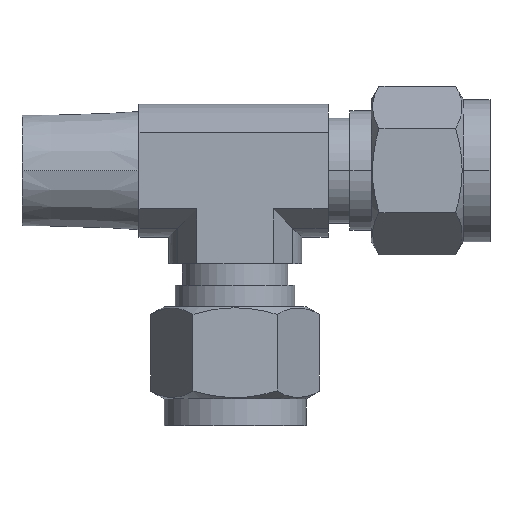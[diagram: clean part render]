
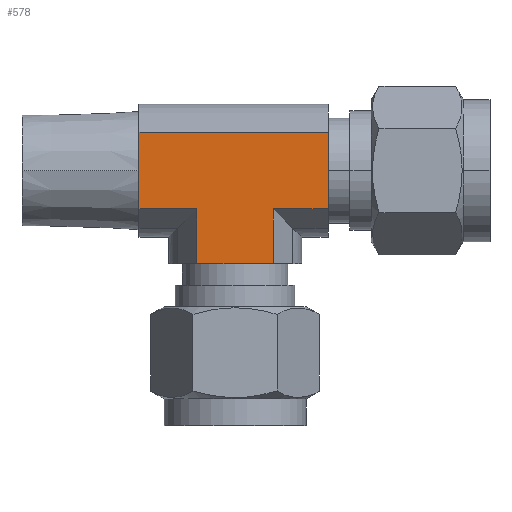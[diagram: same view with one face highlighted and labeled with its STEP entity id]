
A CAD part, top view. The second image highlights one B-rep face of the part: STEP entity #578.
In plain terms, the highlighted planar face has unit normal (0, 0, 1).
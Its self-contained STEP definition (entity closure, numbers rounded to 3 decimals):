
#256 = VERTEX_POINT ( 'NONE', #1457 ) ;
#258 = EDGE_CURVE ( 'NONE', #256, #259, #1456, .T. ) ;
#259 = VERTEX_POINT ( 'NONE', #1452 ) ;
#294 = EDGE_CURVE ( 'NONE', #472, #295, #1360, .T. ) ;
#295 = VERTEX_POINT ( 'NONE', #1523 ) ;
#339 = VERTEX_POINT ( 'NONE', #1721 ) ;
#341 = EDGE_CURVE ( 'NONE', #339, #342, #1720, .T. ) ;
#342 = VERTEX_POINT ( 'NONE', #1716 ) ;
#400 = VERTEX_POINT ( 'NONE', #1723 ) ;
#403 = EDGE_CURVE ( 'NONE', #400, #339, #1655, .T. ) ;
#472 = VERTEX_POINT ( 'NONE', #2241 ) ;
#549 = VERTEX_POINT ( 'NONE', #2441 ) ;
#554 = EDGE_CURVE ( 'NONE', #295, #549, #2346, .T. ) ;
#561 = ORIENTED_EDGE ( 'NONE', *, *, #562, .F. ) ;
#562 = EDGE_CURVE ( 'NONE', #259, #400, #2327, .T. ) ;
#563 = ORIENTED_EDGE ( 'NONE', *, *, #258, .F. ) ;
#564 = ORIENTED_EDGE ( 'NONE', *, *, #565, .T. ) ;
#565 = EDGE_CURVE ( 'NONE', #256, #549, #2323, .T. ) ;
#566 = ORIENTED_EDGE ( 'NONE', *, *, #554, .F. ) ;
#567 = ORIENTED_EDGE ( 'NONE', *, *, #294, .F. ) ;
#568 = ORIENTED_EDGE ( 'NONE', *, *, #576, .T. ) ;
#576 = EDGE_CURVE ( 'NONE', #472, #342, #2401, .T. ) ;
#578 = ADVANCED_FACE ( 'NONE', ( #2392 ), #2390, .F. ) ;
#579 = EDGE_LOOP ( 'NONE', ( #580, #561, #563, #564, #566, #567, #568, #714 ) ) ;
#580 = ORIENTED_EDGE ( 'NONE', *, *, #403, .F. ) ;
#714 = ORIENTED_EDGE ( 'NONE', *, *, #341, .F. ) ;
#1357 = DIRECTION ( 'NONE',  ( 0., -1., 0. ) ) ;
#1358 = VECTOR ( 'NONE', #1357, 1000. ) ;
#1359 = CARTESIAN_POINT ( 'NONE',  ( 11.14, 4.59, 7.95 ) ) ;
#1360 = LINE ( 'NONE', #1359, #1358 ) ;
#1452 = CARTESIAN_POINT ( 'NONE',  ( -4.59, -11.14, 7.95 ) ) ;
#1453 = DIRECTION ( 'NONE',  ( -1., 0., 0. ) ) ;
#1454 = VECTOR ( 'NONE', #1453, 1000. ) ;
#1455 = CARTESIAN_POINT ( 'NONE',  ( 4.59, -11.14, 7.95 ) ) ;
#1456 = LINE ( 'NONE', #1455, #1454 ) ;
#1457 = CARTESIAN_POINT ( 'NONE',  ( 4.59, -11.14, 7.95 ) ) ;
#1523 = CARTESIAN_POINT ( 'NONE',  ( 11.14, -4.59, 7.95 ) ) ;
#1652 = DIRECTION ( 'NONE',  ( -1., 0., 0. ) ) ;
#1653 = VECTOR ( 'NONE', #1652, 1000. ) ;
#1654 = CARTESIAN_POINT ( 'NONE',  ( 11.14, -4.59, 7.95 ) ) ;
#1655 = LINE ( 'NONE', #1654, #1653 ) ;
#1716 = CARTESIAN_POINT ( 'NONE',  ( -11.5, 4.59, 7.95 ) ) ;
#1717 = DIRECTION ( 'NONE',  ( 0., 1., 0. ) ) ;
#1718 = VECTOR ( 'NONE', #1717, 1000. ) ;
#1719 = CARTESIAN_POINT ( 'NONE',  ( -11.5, -4.59, 7.95 ) ) ;
#1720 = LINE ( 'NONE', #1719, #1718 ) ;
#1721 = CARTESIAN_POINT ( 'NONE',  ( -11.5, -4.59, 7.95 ) ) ;
#1723 = CARTESIAN_POINT ( 'NONE',  ( -4.59, -4.59, 7.95 ) ) ;
#2241 = CARTESIAN_POINT ( 'NONE',  ( 11.14, 4.59, 7.95 ) ) ;
#2320 = DIRECTION ( 'NONE',  ( 0., 1., 0. ) ) ;
#2321 = VECTOR ( 'NONE', #2320, 1000. ) ;
#2322 = CARTESIAN_POINT ( 'NONE',  ( 4.59, -11.14, 7.95 ) ) ;
#2323 = LINE ( 'NONE', #2322, #2321 ) ;
#2324 = DIRECTION ( 'NONE',  ( 0., 1., 0. ) ) ;
#2325 = VECTOR ( 'NONE', #2324, 1000. ) ;
#2326 = CARTESIAN_POINT ( 'NONE',  ( -4.59, -11.14, 7.95 ) ) ;
#2327 = LINE ( 'NONE', #2326, #2325 ) ;
#2343 = DIRECTION ( 'NONE',  ( -1., 0., 0. ) ) ;
#2344 = VECTOR ( 'NONE', #2343, 1000. ) ;
#2345 = CARTESIAN_POINT ( 'NONE',  ( 11.14, -4.59, 7.95 ) ) ;
#2346 = LINE ( 'NONE', #2345, #2344 ) ;
#2386 = DIRECTION ( 'NONE',  ( 0., 1., 0. ) ) ;
#2387 = DIRECTION ( 'NONE',  ( 0., 0., -1. ) ) ;
#2388 = CARTESIAN_POINT ( 'NONE',  ( 11.14, 4.59, 7.95 ) ) ;
#2389 = AXIS2_PLACEMENT_3D ( 'NONE', #2388, #2387, #2386 ) ;
#2390 = PLANE ( 'NONE',  #2389 ) ;
#2392 = FACE_OUTER_BOUND ( 'NONE', #579, .T. ) ;
#2393 = DIRECTION ( 'NONE',  ( -1., 0., 0. ) ) ;
#2394 = VECTOR ( 'NONE', #2393, 1000. ) ;
#2395 = CARTESIAN_POINT ( 'NONE',  ( 11.14, 4.59, 7.95 ) ) ;
#2401 = LINE ( 'NONE', #2395, #2394 ) ;
#2441 = CARTESIAN_POINT ( 'NONE',  ( 4.59, -4.59, 7.95 ) ) ;
